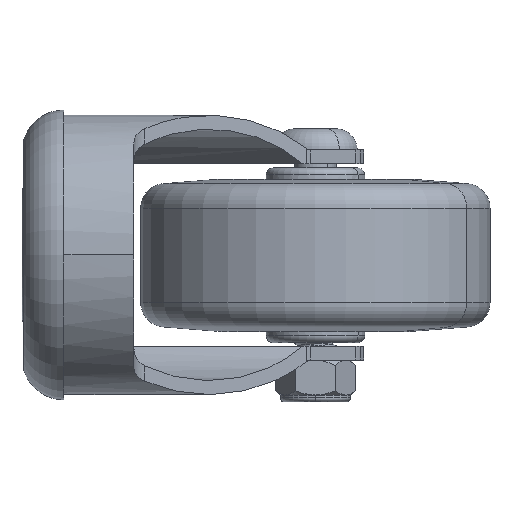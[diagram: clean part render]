
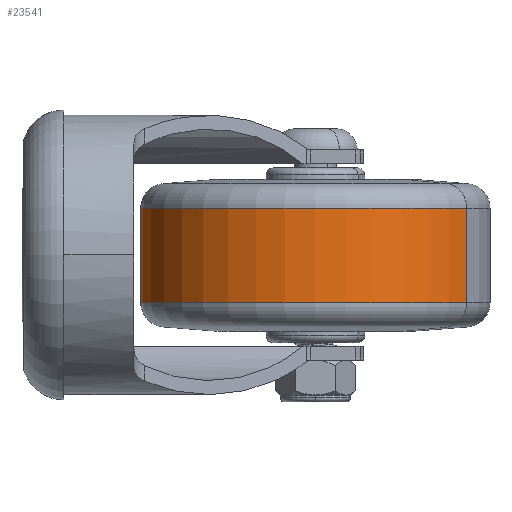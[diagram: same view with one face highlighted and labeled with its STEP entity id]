
A CAD part, left-side view. The second image highlights one B-rep face of the part: STEP entity #23541.
In plain terms, the highlighted cylindrical face has radius 25 mm (diameter 50 mm), a partial arc.
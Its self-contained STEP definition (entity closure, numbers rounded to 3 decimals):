
#674 = CIRCLE ( 'NONE', #5634, 25. ) ;
#739 = AXIS2_PLACEMENT_3D ( 'NONE', #35421, #11077, #37747 ) ;
#2569 = VERTEX_POINT ( 'NONE', #33434 ) ;
#2665 = FACE_OUTER_BOUND ( 'NONE', #19908, .T. ) ;
#2910 = CARTESIAN_POINT ( 'NONE',  ( 0., 6.767, 25. ) ) ;
#3685 = VERTEX_POINT ( 'NONE', #38103 ) ;
#4088 = LINE ( 'NONE', #22390, #13302 ) ;
#4486 = AXIS2_PLACEMENT_3D ( 'NONE', #38483, #29141, #11826 ) ;
#5634 = AXIS2_PLACEMENT_3D ( 'NONE', #11517, #8998, #17753 ) ;
#6357 = VECTOR ( 'NONE', #27169, 1000. ) ;
#7862 = VERTEX_POINT ( 'NONE', #2910 ) ;
#8322 = CYLINDRICAL_SURFACE ( 'NONE', #4486, 25. ) ;
#8998 = DIRECTION ( 'NONE',  ( 0., -1., 0. ) ) ;
#10841 = ORIENTED_EDGE ( 'NONE', *, *, #38475, .F. ) ;
#11077 = DIRECTION ( 'NONE',  ( 0., -1., 0. ) ) ;
#11517 = CARTESIAN_POINT ( 'NONE',  ( 0., 6.767, 0. ) ) ;
#11826 = DIRECTION ( 'NONE',  ( 0., 0., -1. ) ) ;
#13302 = VECTOR ( 'NONE', #15992, 1000. ) ;
#14974 = ORIENTED_EDGE ( 'NONE', *, *, #38085, .F. ) ;
#15165 = EDGE_CURVE ( 'NONE', #2569, #3685, #4088, .T. ) ;
#15992 = DIRECTION ( 'NONE',  ( 0., -1., 0. ) ) ;
#17529 = CIRCLE ( 'NONE', #739, 25. ) ;
#17753 = DIRECTION ( 'NONE',  ( 0., 0., -1. ) ) ;
#18225 = CARTESIAN_POINT ( 'NONE',  ( 0., 0., 25. ) ) ;
#19908 = EDGE_LOOP ( 'NONE', ( #14974, #34633, #37584, #10841 ) ) ;
#20228 = EDGE_CURVE ( 'NONE', #7862, #2569, #674, .T. ) ;
#22390 = CARTESIAN_POINT ( 'NONE',  ( 0., 0., -25. ) ) ;
#23541 = ADVANCED_FACE ( 'NONE', ( #2665 ), #8322, .T. ) ;
#27169 = DIRECTION ( 'NONE',  ( 0., -1., 0. ) ) ;
#29141 = DIRECTION ( 'NONE',  ( 0., -1., 0. ) ) ;
#29902 = LINE ( 'NONE', #18225, #6357 ) ;
#31148 = CARTESIAN_POINT ( 'NONE',  ( 0., -6.767, 25. ) ) ;
#31514 = VERTEX_POINT ( 'NONE', #31148 ) ;
#33434 = CARTESIAN_POINT ( 'NONE',  ( 0., 6.767, -25. ) ) ;
#34633 = ORIENTED_EDGE ( 'NONE', *, *, #20228, .T. ) ;
#35421 = CARTESIAN_POINT ( 'NONE',  ( 0., -6.767, 0. ) ) ;
#37584 = ORIENTED_EDGE ( 'NONE', *, *, #15165, .T. ) ;
#37747 = DIRECTION ( 'NONE',  ( 0., 0., -1. ) ) ;
#38085 = EDGE_CURVE ( 'NONE', #7862, #31514, #29902, .T. ) ;
#38103 = CARTESIAN_POINT ( 'NONE',  ( 0., -6.767, -25. ) ) ;
#38475 = EDGE_CURVE ( 'NONE', #31514, #3685, #17529, .T. ) ;
#38483 = CARTESIAN_POINT ( 'NONE',  ( 0., 0., 0. ) ) ;
